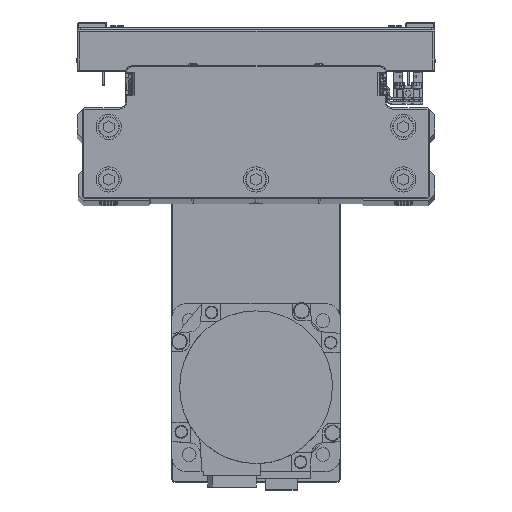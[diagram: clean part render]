
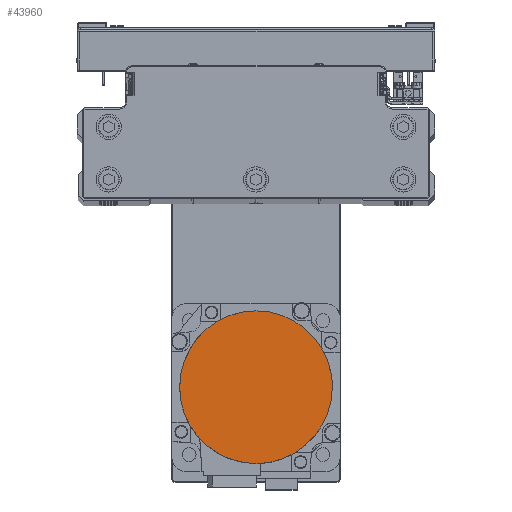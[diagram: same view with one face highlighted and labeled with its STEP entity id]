
A CAD part, top view. The second image highlights one B-rep face of the part: STEP entity #43960.
In plain terms, the highlighted planar face has unit normal (0, 0, 1) as drawn and (0, 0, -1) by its records, which use the part's own axes.
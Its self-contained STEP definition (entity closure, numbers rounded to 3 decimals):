
#579 = CARTESIAN_POINT ( 'NONE',  ( -31.502, 18.192, -122.2 ) ) ;
#1077 = CARTESIAN_POINT ( 'NONE',  ( -31.502, -18.192, -122.2 ) ) ;
#2466 = EDGE_CURVE ( 'NONE', #11666, #37645, #13490, .T. ) ;
#3484 = CARTESIAN_POINT ( 'NONE',  ( 0., 0., -122.2 ) ) ;
#4028 = CARTESIAN_POINT ( 'NONE',  ( -23.988, 27.348, -122.2 ) ) ;
#4547 = CARTESIAN_POINT ( 'NONE',  ( -35.139, -9.412, -122.2 ) ) ;
#4762 = CARTESIAN_POINT ( 'NONE',  ( -2.376, -36.3, -122.2 ) ) ;
#7379 = B_SPLINE_CURVE_WITH_KNOTS ( 'NONE', 3,
 ( #7977, #21982, #36026, #4547, #18547, #32553, #1077, #15093, #29088, #43132, #11653, #25647, #39675, #8204, #22218, #36244, #4762, #18765 ),
 .UNSPECIFIED., .F., .F.,
 ( 4, 2, 2, 2, 2, 2, 2, 2, 4 ),
 ( 0., 0.125, 0.25, 0.375, 0.5, 0.625, 0.75, 0.875, 1. ),
 .UNSPECIFIED. ) ;
#7489 = CARTESIAN_POINT ( 'NONE',  ( -16.086, 32.628, -122.2 ) ) ;
#7977 = CARTESIAN_POINT ( 'NONE',  ( -36.3, 0., -122.2 ) ) ;
#8025 = DIRECTION ( 'NONE',  ( 0., 0., 1. ) ) ;
#8204 = CARTESIAN_POINT ( 'NONE',  ( -11.696, -34.446, -122.2 ) ) ;
#10918 = CARTESIAN_POINT ( 'NONE',  ( -4.752, 36.066, -122.2 ) ) ;
#11152 = CARTESIAN_POINT ( 'NONE',  ( -36.066, 4.752, -122.2 ) ) ;
#11467 = FACE_OUTER_BOUND ( 'NONE', #19041, .T. ) ;
#11527 = DIRECTION ( 'NONE',  ( -1., 0., 0. ) ) ;
#11529 = EDGE_CURVE ( 'NONE', #22480, #17848, #7379, .T. ) ;
#11653 = CARTESIAN_POINT ( 'NONE',  ( -22.143, -28.862, -122.2 ) ) ;
#11666 = VERTEX_POINT ( 'NONE', #16873 ) ;
#13010 = ORIENTED_EDGE ( 'NONE', *, *, #11529, .F. ) ;
#13490 = CIRCLE ( 'NONE', #32993, 36.3 ) ;
#14509 = CARTESIAN_POINT ( 'NONE',  ( 0., -36.3, -122.2 ) ) ;
#14597 = CARTESIAN_POINT ( 'NONE',  ( -32.628, 16.086, -122.2 ) ) ;
#15093 = CARTESIAN_POINT ( 'NONE',  ( -28.862, -22.143, -122.2 ) ) ;
#15750 = ORIENTED_EDGE ( 'NONE', *, *, #23590, .F. ) ;
#16873 = CARTESIAN_POINT ( 'NONE',  ( 36.3, 0., -122.2 ) ) ;
#17505 = DIRECTION ( 'NONE',  ( 0., 0., 1. ) ) ;
#17833 = CIRCLE ( 'NONE', #43513, 36.3 ) ;
#17848 = VERTEX_POINT ( 'NONE', #14509 ) ;
#18033 = CARTESIAN_POINT ( 'NONE',  ( -27.348, 23.988, -122.2 ) ) ;
#18547 = CARTESIAN_POINT ( 'NONE',  ( -34.446, -11.696, -122.2 ) ) ;
#18765 = CARTESIAN_POINT ( 'NONE',  ( 0., -36.3, -122.2 ) ) ;
#19041 = EDGE_LOOP ( 'NONE', ( #15750, #13010, #26383, #25897 ) ) ;
#21357 = B_SPLINE_CURVE_WITH_KNOTS ( 'NONE', 3,
 ( #28364, #42396, #10918, #24916, #38944, #7489, #21482, #35514, #4028, #18033, #32038, #579, #14597, #28587, #42631, #11152, #25140, #39155 ),
 .UNSPECIFIED., .F., .F.,
 ( 4, 2, 2, 2, 2, 2, 2, 2, 4 ),
 ( 0., 0.125, 0.25, 0.375, 0.5, 0.625, 0.75, 0.875, 1. ),
 .UNSPECIFIED. ) ;
#21482 = CARTESIAN_POINT ( 'NONE',  ( -18.192, 31.502, -122.2 ) ) ;
#21982 = CARTESIAN_POINT ( 'NONE',  ( -36.3, -2.376, -122.2 ) ) ;
#22043 = DIRECTION ( 'NONE',  ( 1., 0., 0. ) ) ;
#22218 = CARTESIAN_POINT ( 'NONE',  ( -9.412, -35.139, -122.2 ) ) ;
#22480 = VERTEX_POINT ( 'NONE', #37685 ) ;
#23590 = EDGE_CURVE ( 'NONE', #17848, #11666, #17833, .T. ) ;
#24916 = CARTESIAN_POINT ( 'NONE',  ( -9.412, 35.139, -122.2 ) ) ;
#25140 = CARTESIAN_POINT ( 'NONE',  ( -36.3, 2.376, -122.2 ) ) ;
#25462 = PLANE ( 'NONE',  #25522 ) ;
#25522 = AXIS2_PLACEMENT_3D ( 'NONE', #39491, #8025, #22043 ) ;
#25647 = CARTESIAN_POINT ( 'NONE',  ( -18.192, -31.502, -122.2 ) ) ;
#25897 = ORIENTED_EDGE ( 'NONE', *, *, #2466, .F. ) ;
#26383 = ORIENTED_EDGE ( 'NONE', *, *, #34835, .F. ) ;
#28364 = CARTESIAN_POINT ( 'NONE',  ( 0., 36.3, -122.2 ) ) ;
#28587 = CARTESIAN_POINT ( 'NONE',  ( -34.446, 11.696, -122.2 ) ) ;
#28958 = CARTESIAN_POINT ( 'NONE',  ( 0., 0., -122.2 ) ) ;
#29088 = CARTESIAN_POINT ( 'NONE',  ( -27.348, -23.988, -122.2 ) ) ;
#31502 = DIRECTION ( 'NONE',  ( -1., 0., 0. ) ) ;
#32038 = CARTESIAN_POINT ( 'NONE',  ( -28.862, 22.143, -122.2 ) ) ;
#32553 = CARTESIAN_POINT ( 'NONE',  ( -32.628, -16.086, -122.2 ) ) ;
#32993 = AXIS2_PLACEMENT_3D ( 'NONE', #3484, #17505, #31502 ) ;
#33434 = CARTESIAN_POINT ( 'NONE',  ( 0., 36.3, -122.2 ) ) ;
#34835 = EDGE_CURVE ( 'NONE', #37645, #22480, #21357, .T. ) ;
#35514 = CARTESIAN_POINT ( 'NONE',  ( -22.143, 28.862, -122.2 ) ) ;
#36026 = CARTESIAN_POINT ( 'NONE',  ( -36.066, -4.752, -122.2 ) ) ;
#36244 = CARTESIAN_POINT ( 'NONE',  ( -4.752, -36.066, -122.2 ) ) ;
#37645 = VERTEX_POINT ( 'NONE', #33434 ) ;
#37685 = CARTESIAN_POINT ( 'NONE',  ( -36.3, 0., -122.2 ) ) ;
#38944 = CARTESIAN_POINT ( 'NONE',  ( -11.696, 34.446, -122.2 ) ) ;
#39155 = CARTESIAN_POINT ( 'NONE',  ( -36.3, 0., -122.2 ) ) ;
#39491 = CARTESIAN_POINT ( 'NONE',  ( 0., 0., -122.2 ) ) ;
#39675 = CARTESIAN_POINT ( 'NONE',  ( -16.086, -32.628, -122.2 ) ) ;
#42396 = CARTESIAN_POINT ( 'NONE',  ( -2.376, 36.3, -122.2 ) ) ;
#42631 = CARTESIAN_POINT ( 'NONE',  ( -35.139, 9.412, -122.2 ) ) ;
#42993 = DIRECTION ( 'NONE',  ( 0., 0., 1. ) ) ;
#43132 = CARTESIAN_POINT ( 'NONE',  ( -23.988, -27.348, -122.2 ) ) ;
#43513 = AXIS2_PLACEMENT_3D ( 'NONE', #28958, #42993, #11527 ) ;
#43960 = ADVANCED_FACE ( 'NONE', ( #11467 ), #25462, .F. ) ;
